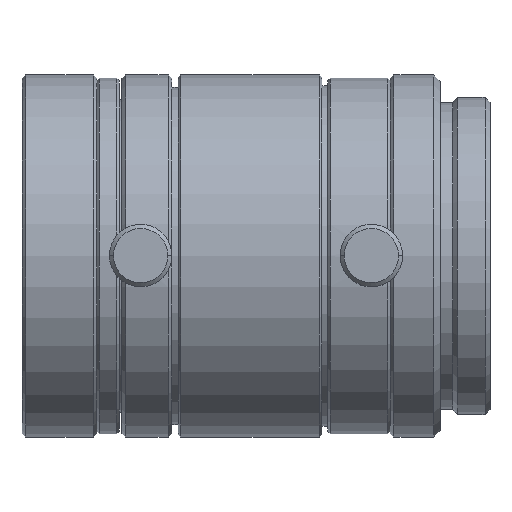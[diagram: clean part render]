
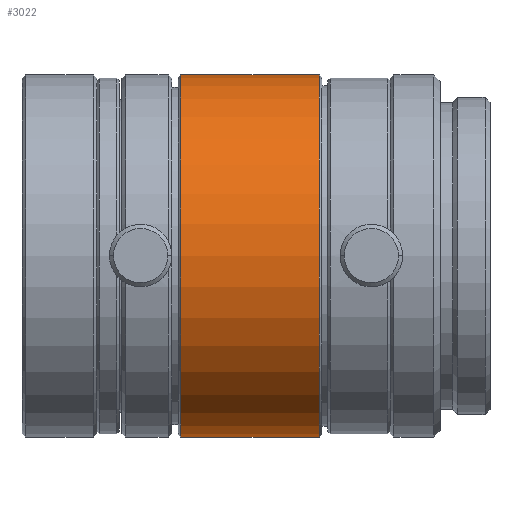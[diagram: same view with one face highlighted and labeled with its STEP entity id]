
A CAD part, top view. The second image highlights one B-rep face of the part: STEP entity #3022.
In plain terms, the highlighted cylindrical face has radius 14.5 mm (diameter 29 mm), a partial arc.
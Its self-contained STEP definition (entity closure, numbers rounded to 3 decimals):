
#616 = CARTESIAN_POINT ( 'NONE',  ( -38.296, 14.5, 0. ) ) ;
#622 = DIRECTION ( 'NONE',  ( -1., 0., 0. ) ) ;
#674 = ORIENTED_EDGE ( 'NONE', *, *, #919, .T. ) ;
#775 = VERTEX_POINT ( 'NONE', #2397 ) ;
#817 = CARTESIAN_POINT ( 'NONE',  ( -38.296, 0., 0. ) ) ;
#819 = CARTESIAN_POINT ( 'NONE',  ( -27.196, 0., 0. ) ) ;
#850 = CARTESIAN_POINT ( 'NONE',  ( -27.196, 14.5, 0. ) ) ;
#889 = ORIENTED_EDGE ( 'NONE', *, *, #1724, .T. ) ;
#915 = VERTEX_POINT ( 'NONE', #3620 ) ;
#919 = EDGE_CURVE ( 'NONE', #915, #3300, #3265, .T. ) ;
#948 = CIRCLE ( 'NONE', #3229, 14.5 ) ;
#1097 = DIRECTION ( 'NONE',  ( 0., -1., 0. ) ) ;
#1100 = DIRECTION ( 'NONE',  ( 0., -1., 0. ) ) ;
#1259 = CARTESIAN_POINT ( 'NONE',  ( -54.489, 0., 0. ) ) ;
#1476 = AXIS2_PLACEMENT_3D ( 'NONE', #1259, #1833, #2936 ) ;
#1566 = ORIENTED_EDGE ( 'NONE', *, *, #2948, .F. ) ;
#1700 = LINE ( 'NONE', #2961, #3181 ) ;
#1724 = EDGE_CURVE ( 'NONE', #3300, #2106, #1700, .T. ) ;
#1833 = DIRECTION ( 'NONE',  ( -1., 0., 0. ) ) ;
#1893 = AXIS2_PLACEMENT_3D ( 'NONE', #819, #2769, #1100 ) ;
#2106 = VERTEX_POINT ( 'NONE', #616 ) ;
#2157 = EDGE_CURVE ( 'NONE', #915, #775, #3183, .T. ) ;
#2229 = CYLINDRICAL_SURFACE ( 'NONE', #1476, 14.5 ) ;
#2397 = CARTESIAN_POINT ( 'NONE',  ( -38.296, -14.5, 0. ) ) ;
#2481 = ORIENTED_EDGE ( 'NONE', *, *, #2157, .F. ) ;
#2530 = VECTOR ( 'NONE', #622, 1000. ) ;
#2767 = DIRECTION ( 'NONE',  ( -1., 0., 0. ) ) ;
#2769 = DIRECTION ( 'NONE',  ( -1., 0., 0. ) ) ;
#2841 = EDGE_LOOP ( 'NONE', ( #674, #889, #1566, #2481 ) ) ;
#2936 = DIRECTION ( 'NONE',  ( 0., -1., 0. ) ) ;
#2948 = EDGE_CURVE ( 'NONE', #775, #2106, #948, .T. ) ;
#2961 = CARTESIAN_POINT ( 'NONE',  ( -54.489, 14.5, 0. ) ) ;
#3022 = ADVANCED_FACE ( 'NONE', ( #3227 ), #2229, .T. ) ;
#3181 = VECTOR ( 'NONE', #3244, 1000. ) ;
#3183 = LINE ( 'NONE', #3436, #2530 ) ;
#3227 = FACE_OUTER_BOUND ( 'NONE', #2841, .T. ) ;
#3229 = AXIS2_PLACEMENT_3D ( 'NONE', #817, #2767, #1097 ) ;
#3244 = DIRECTION ( 'NONE',  ( -1., 0., 0. ) ) ;
#3265 = CIRCLE ( 'NONE', #1893, 14.5 ) ;
#3300 = VERTEX_POINT ( 'NONE', #850 ) ;
#3436 = CARTESIAN_POINT ( 'NONE',  ( -54.489, -14.5, 0. ) ) ;
#3620 = CARTESIAN_POINT ( 'NONE',  ( -27.196, -14.5, 0. ) ) ;
